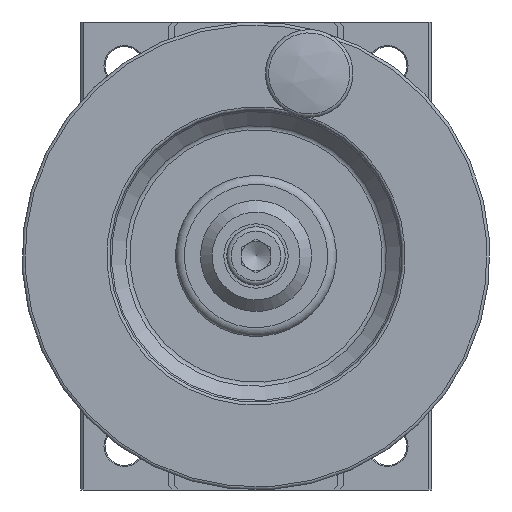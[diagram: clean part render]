
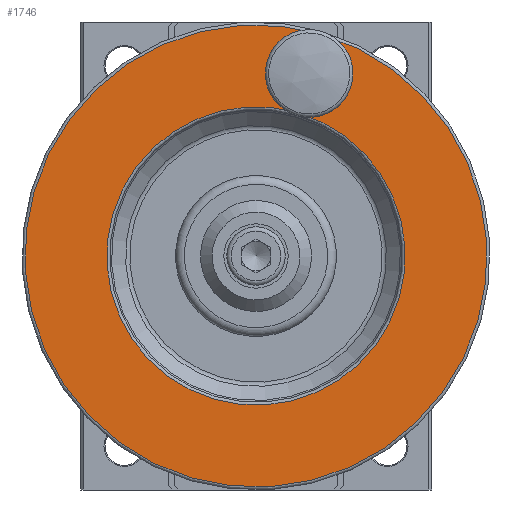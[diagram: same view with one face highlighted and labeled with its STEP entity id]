
A CAD part, left-side view. The second image highlights one B-rep face of the part: STEP entity #1746.
In plain terms, the highlighted planar face has unit normal (-1, 0, 0).
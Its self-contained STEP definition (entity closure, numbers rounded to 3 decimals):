
#160 = EDGE_LOOP ( 'NONE', ( #8822 ) ) ;
#407 = FACE_BOUND ( 'NONE', #11588, .T. ) ;
#650 = DIRECTION ( 'NONE',  ( 1., 0., 0. ) ) ;
#1227 = DIRECTION ( 'NONE',  ( -1., 0., 0. ) ) ;
#1332 = FACE_OUTER_BOUND ( 'NONE', #7380, .T. ) ;
#1704 = ORIENTED_EDGE ( 'NONE', *, *, #10890, .T. ) ;
#1746 = ADVANCED_FACE ( 'NONE', ( #407, #9755, #1332 ), #9812, .F. ) ;
#2134 = CARTESIAN_POINT ( 'NONE',  ( 23.5, 14., -40. ) ) ;
#2152 = CARTESIAN_POINT ( 'NONE',  ( 23.5, 14., -40. ) ) ;
#3340 = CARTESIAN_POINT ( 'NONE',  ( 23.5, 4.904, -8.799 ) ) ;
#3589 = VERTEX_POINT ( 'NONE', #8373 ) ;
#4001 = DIRECTION ( 'NONE',  ( 1., 0., 0. ) ) ;
#4086 = DIRECTION ( 'NONE',  ( 0., -0.96, -0.28 ) ) ;
#4834 = EDGE_CURVE ( 'NONE', #3589, #3589, #11768, .T. ) ;
#4963 = DIRECTION ( 'NONE',  ( 0., -0.96, -0.28 ) ) ;
#5205 = DIRECTION ( 'NONE',  ( 1., 0., 0. ) ) ;
#5575 = CIRCLE ( 'NONE', #6355, 3.001 ) ;
#5906 = VERTEX_POINT ( 'NONE', #8608 ) ;
#6044 = DIRECTION ( 'NONE',  ( 0., -0.96, -0.28 ) ) ;
#6355 = AXIS2_PLACEMENT_3D ( 'NONE', #3340, #650, #6044 ) ;
#6521 = EDGE_CURVE ( 'NONE', #5906, #5906, #9846, .T. ) ;
#6566 = AXIS2_PLACEMENT_3D ( 'NONE', #10731, #5205, #4086 ) ;
#7380 = EDGE_LOOP ( 'NONE', ( #8920 ) ) ;
#7703 = DIRECTION ( 'NONE',  ( 0., -0.96, -0.28 ) ) ;
#7738 = CARTESIAN_POINT ( 'NONE',  ( 23.5, 2.024, -9.639 ) ) ;
#8061 = AXIS2_PLACEMENT_3D ( 'NONE', #2134, #1227, #4963 ) ;
#8373 = CARTESIAN_POINT ( 'NONE',  ( 23.5, -10.481, -47.137 ) ) ;
#8608 = CARTESIAN_POINT ( 'NONE',  ( 23.5, -23.921, -51.055 ) ) ;
#8822 = ORIENTED_EDGE ( 'NONE', *, *, #4834, .T. ) ;
#8889 = VERTEX_POINT ( 'NONE', #7738 ) ;
#8920 = ORIENTED_EDGE ( 'NONE', *, *, #6521, .T. ) ;
#9755 = FACE_BOUND ( 'NONE', #160, .T. ) ;
#9812 = PLANE ( 'NONE',  #6566 ) ;
#9846 = CIRCLE ( 'NONE', #8061, 39.5 ) ;
#10731 = CARTESIAN_POINT ( 'NONE',  ( 23.5, 25.195, -78.402 ) ) ;
#10890 = EDGE_CURVE ( 'NONE', #8889, #8889, #5575, .T. ) ;
#11189 = AXIS2_PLACEMENT_3D ( 'NONE', #2152, #4001, #7703 ) ;
#11588 = EDGE_LOOP ( 'NONE', ( #1704 ) ) ;
#11768 = CIRCLE ( 'NONE', #11189, 25.5 ) ;
